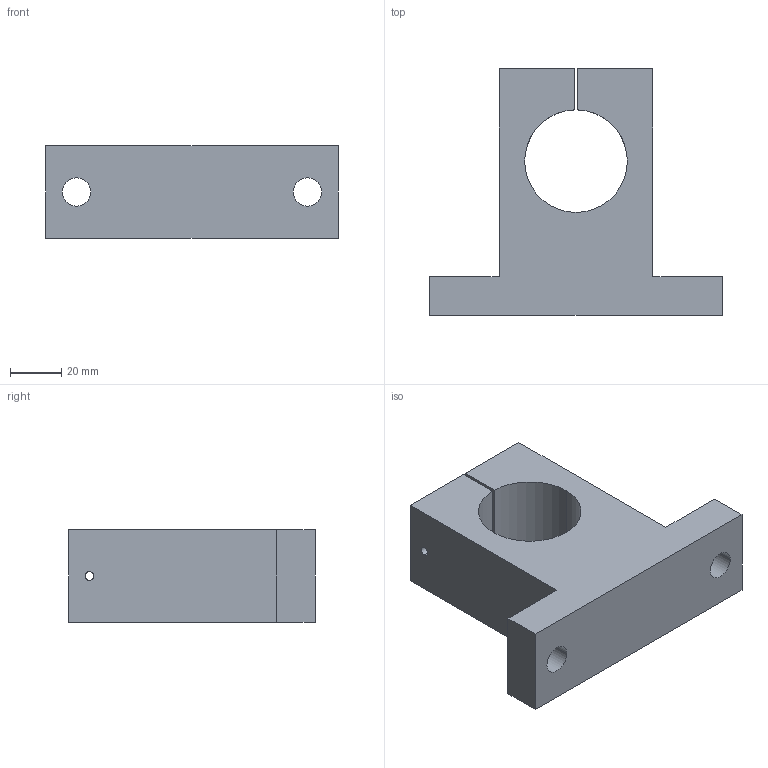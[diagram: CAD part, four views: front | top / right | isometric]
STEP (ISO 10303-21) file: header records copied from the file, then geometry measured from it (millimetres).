
FILE_DESCRIPTION((''),'2;1');
FILE_NAME('C:\Documents and Settings\ｿﾀﾀ蠑ｷ1\ｹﾙﾅﾁ ﾈｭｸ饅\ｺﾎﾇｰﾆﾄﾀﾏ\ﾁｦﾇｰ\SK\SK40.stp','2005-06-15T17:42:19',('ｿﾀﾀ蠑ｷ1'),(''),'Autodesk Inventor 9','Autodesk Inventor 9','');
FILE_SCHEMA(('AUTOMOTIVE_DESIGN { 1 0 10303 214 1 1 1 1 }'));
Length unit declared in the file: millimetre
Products named in the file (1): SK__
Bounding box: 114 x 96 x 36 mm (x, y, z)
Volume: 185303.5 mm3; surface area: 33049.8 mm2
Topology: 1 solids, 1 shells, 27 faces, 72 edges, 48 vertices
Faces by surface type: plane 13, bspline 11, cylinder 3
Entity records: 1021 total; most frequent: CARTESIAN_POINT 321, ORIENTED_EDGE 144, DIRECTION 132, EDGE_CURVE 72, VERTEX_POINT 48, VECTOR 46, LINE 46, AXIS2_PLACEMENT_3D 43
